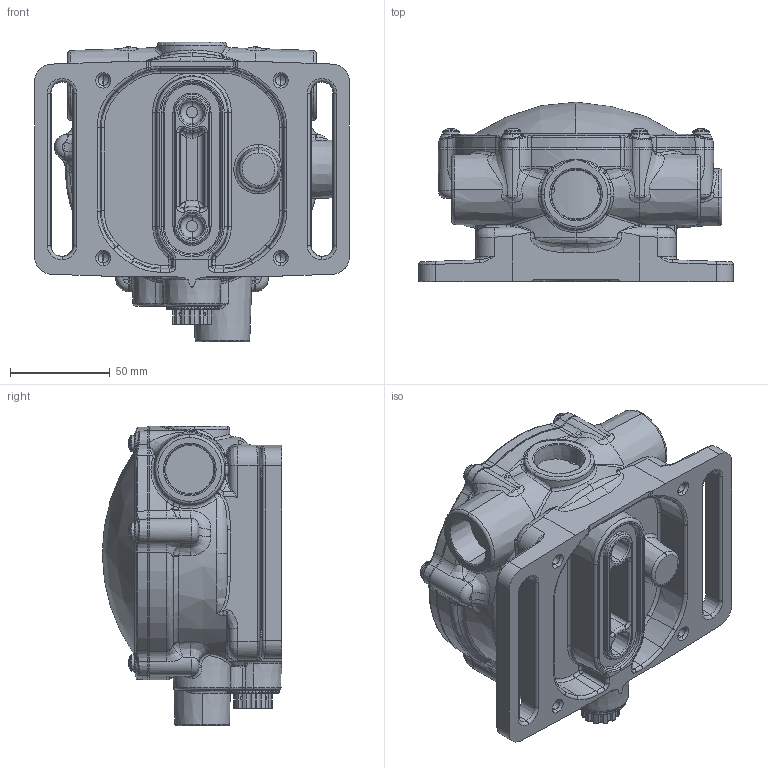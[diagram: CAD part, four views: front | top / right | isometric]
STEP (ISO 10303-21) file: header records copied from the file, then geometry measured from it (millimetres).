
FILE_DESCRIPTION (( 'STEP AP203' ), '1' );
FILE_NAME ('LM500 STEP.STEP', '2014-03-19T19:35:04', ( '' ), ( '' ), 'SwSTEP 2.0', 'SolidWorks 2012', '' );
FILE_SCHEMA (( 'CONFIG_CONTROL_DESIGN' ));
Length unit declared in the file: inch
Products named in the file (1): LM500 STEP
Bounding box: 157.73 x 89.87 x 149.86 mm (x, y, z)
Volume: 860089.6 mm3; surface area: 115580 mm2
Topology: 1 solids, 10 shells, 2340 faces, 5987 edges, 3633 vertices
Faces by surface type: cylinder 818, bspline 493, plane 430, torus 306, cone 265, sphere 28
Entity records: 101048 total; most frequent: CARTESIAN_POINT 51168, ORIENTED_EDGE 11842, DIRECTION 9070, EDGE_CURVE 5921, VERTEX_POINT 3633, AXIS2_PLACEMENT_3D 3626, EDGE_LOOP 2388, FACE_OUTER_BOUND 2340
